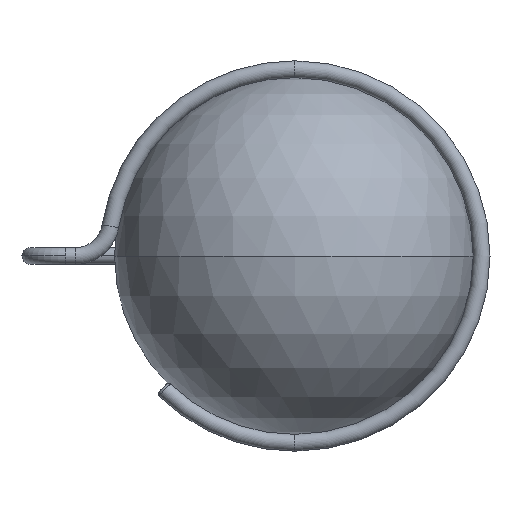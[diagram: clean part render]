
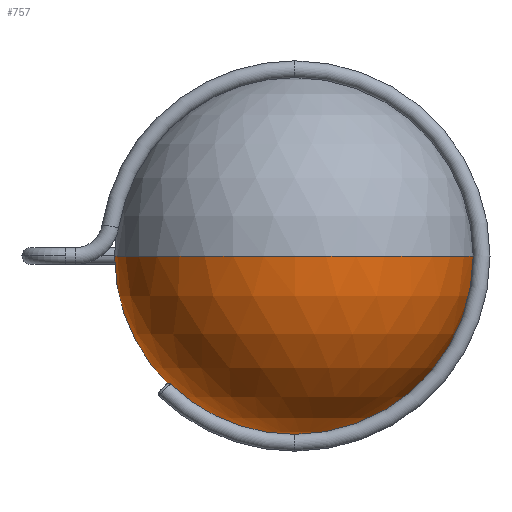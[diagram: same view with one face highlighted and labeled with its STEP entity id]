
A CAD part, front view. The second image highlights one B-rep face of the part: STEP entity #757.
In plain terms, the highlighted spherical face has radius 150 mm.
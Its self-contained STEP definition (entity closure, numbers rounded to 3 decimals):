
#146 = FACE_OUTER_BOUND ( 'NONE', #1466, .T. ) ;
#168 = CARTESIAN_POINT ( 'NONE',  ( 0., 0., 0. ) ) ;
#262 = DIRECTION ( 'NONE',  ( -1., 0., 0. ) ) ;
#268 = AXIS2_PLACEMENT_3D ( 'NONE', #2139, #2766, #925 ) ;
#305 = CIRCLE ( 'NONE', #1726, 76.34 ) ;
#360 = CARTESIAN_POINT ( 'NONE',  ( 76.34, 129.121, 0. ) ) ;
#468 = DIRECTION ( 'NONE',  ( 0., 0., -1. ) ) ;
#489 = DIRECTION ( 'NONE',  ( 0., 0., -1. ) ) ;
#492 = CARTESIAN_POINT ( 'NONE',  ( -76.34, 129.121, 0. ) ) ;
#510 = CARTESIAN_POINT ( 'NONE',  ( 0., 129.121, 0. ) ) ;
#639 = EDGE_CURVE ( 'NONE', #2542, #835, #3263, .T. ) ;
#734 = ORIENTED_EDGE ( 'NONE', *, *, #639, .F. ) ;
#751 = CARTESIAN_POINT ( 'NONE',  ( 0., 0., 0. ) ) ;
#757 = ADVANCED_FACE ( 'NONE', ( #146 ), #3527, .T. ) ;
#773 = DIRECTION ( 'NONE',  ( 1., 0., 0. ) ) ;
#815 = DIRECTION ( 'NONE',  ( 0., -1., 0. ) ) ;
#835 = VERTEX_POINT ( 'NONE', #2607 ) ;
#847 = CARTESIAN_POINT ( 'NONE',  ( 0., 129.121, -76.34 ) ) ;
#925 = DIRECTION ( 'NONE',  ( 0., 0., -1. ) ) ;
#1053 = DIRECTION ( 'NONE',  ( 0., 0., 1. ) ) ;
#1134 = EDGE_CURVE ( 'NONE', #3560, #1460, #305, .T. ) ;
#1313 = ORIENTED_EDGE ( 'NONE', *, *, #1134, .T. ) ;
#1460 = VERTEX_POINT ( 'NONE', #360 ) ;
#1466 = EDGE_LOOP ( 'NONE', ( #2885, #1313, #3184, #734 ) ) ;
#1705 = DIRECTION ( 'NONE',  ( -1., 0., 0. ) ) ;
#1726 = AXIS2_PLACEMENT_3D ( 'NONE', #510, #815, #489 ) ;
#1798 = DIRECTION ( 'NONE',  ( 0., 0., -1. ) ) ;
#1844 = AXIS2_PLACEMENT_3D ( 'NONE', #168, #1053, #773 ) ;
#1935 = CIRCLE ( 'NONE', #268, 76.34 ) ;
#2139 = CARTESIAN_POINT ( 'NONE',  ( 0., 129.121, 0. ) ) ;
#2542 = VERTEX_POINT ( 'NONE', #492 ) ;
#2549 = AXIS2_PLACEMENT_3D ( 'NONE', #751, #468, #1705 ) ;
#2607 = CARTESIAN_POINT ( 'NONE',  ( 0., -150., 0. ) ) ;
#2766 = DIRECTION ( 'NONE',  ( 0., -1., 0. ) ) ;
#2885 = ORIENTED_EDGE ( 'NONE', *, *, #3698, .T. ) ;
#3008 = CARTESIAN_POINT ( 'NONE',  ( 0., 0., 0. ) ) ;
#3184 = ORIENTED_EDGE ( 'NONE', *, *, #3659, .T. ) ;
#3263 = CIRCLE ( 'NONE', #1844, 150. ) ;
#3492 = CIRCLE ( 'NONE', #3756, 150. ) ;
#3527 = SPHERICAL_SURFACE ( 'NONE', #2549, 150. ) ;
#3560 = VERTEX_POINT ( 'NONE', #847 ) ;
#3659 = EDGE_CURVE ( 'NONE', #1460, #835, #3492, .T. ) ;
#3698 = EDGE_CURVE ( 'NONE', #2542, #3560, #1935, .T. ) ;
#3756 = AXIS2_PLACEMENT_3D ( 'NONE', #3008, #1798, #262 ) ;
